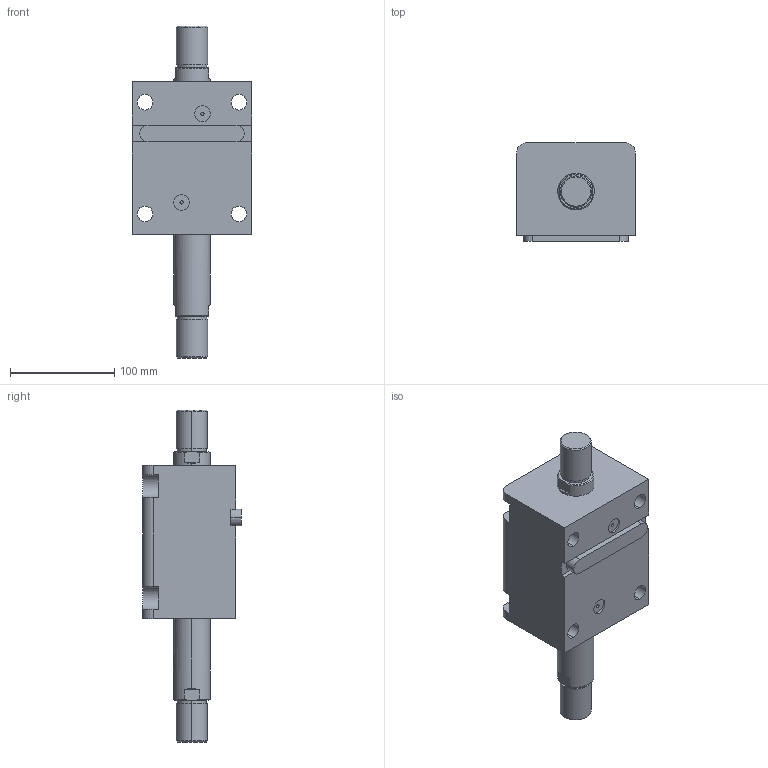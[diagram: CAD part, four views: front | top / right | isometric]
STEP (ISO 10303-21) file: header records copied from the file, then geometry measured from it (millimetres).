
FILE_DESCRIPTION (( 'STEP AP203' ), '1' );
FILE_NAME ('HTB-LWM63-65W.STEP', '2020-12-25T03:50:47', ( '微软用户' ), ( '微软中国' ), 'SwSTEP 2.0', 'SolidWorks 2012', '' );
FILE_SCHEMA (( 'CONFIG_CONTROL_DESIGN' ));
Length unit declared in the file: millimetre
Products named in the file (4): HTB-LWM63-65掛极; HTB-LWM63-65W活塞杆; HTB-LWM63-瑩; HTB-LWM63-65W
Assembly tree (3 placements, depth 2):
  HTB-LWM63-65W
    HTB-LWM63-65掛极
    HTB-LWM63-65W活塞杆
    HTB-LWM63-瑩
Bounding box: 114 x 94.5 x 318 mm (x, y, z)
Volume: 1416537.5 mm3; surface area: 167599.1 mm2
Topology: 3 solids, 3 shells, 113 faces, 273 edges, 178 vertices
Faces by surface type: cylinder 49, plane 48, torus 8, cone 8
Entity records: 3783 total; most frequent: CARTESIAN_POINT 626, DIRECTION 617, ORIENTED_EDGE 546, EDGE_CURVE 273, AXIS2_PLACEMENT_3D 241, VERTEX_POINT 178, EDGE_LOOP 135, LINE 135
